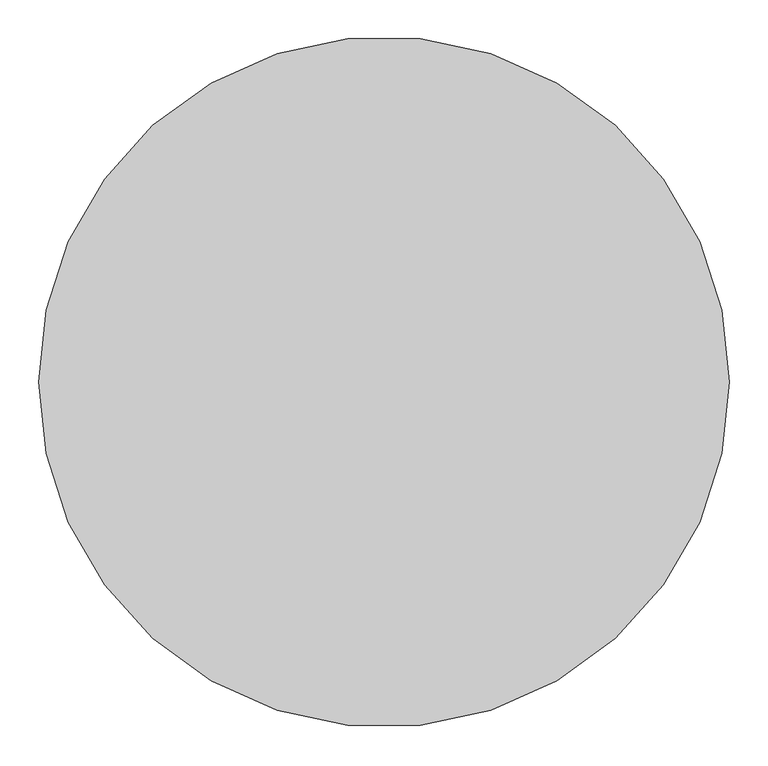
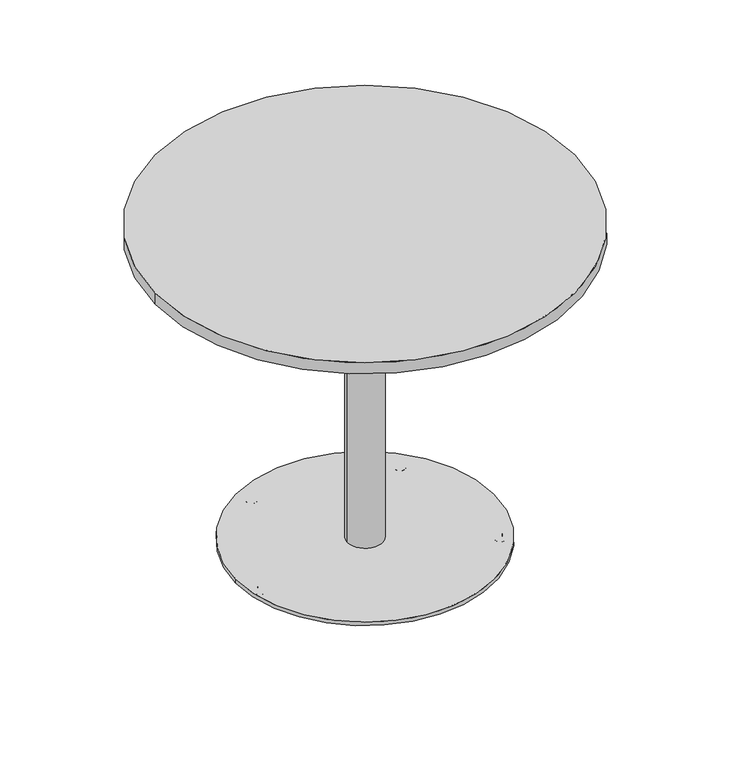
"""IFC4 building model written with IfcOpenShell, lengths in millimetres: furniture geometry, Tetra Disk Base Table : Tetra Disk Base Table."""

from ifc_helpers import new_model, si_unit, point, frame, frame_2d, origin, origin_2d, place, context, project, spatial, polyline, circle_curve, ellipse_curve, trimmed, segment, composite_curve, outline, extrude, source, transform, mapped, element, save
from ifc_brep_helpers import plane_surface, cylinder_surface, revolved_surface, advanced_brep


def furniture_2d7424ca(model_context):
    return source(origin(), model_context, "Body", "SolidModel", [
        advanced_brep(
        [(222.7428677, -113.4988573, 12.0), (219.5466225, -111.1766493, 12.0), (225.9391129, -115.8210653, 12.0), (228.6860049, -117.816799, 0.0), (216.7997306, -109.1809156, 0.0), (222.7428677, -113.4988573, 0.0), (232.7310899, -120.7557252, 5.0), (212.7546456, -106.2419894, 5.0), (232.7310899, -120.7557252, 7.0000003), (212.7546456, -106.2419894, 7.0000003), (225.9391129, -115.8210653, 7.0000003), (219.5466225, -111.1766493, 7.0000003)],
        [
            (0, 1),
            (1, 2, circle_curve(frame((222.7428677, -113.4988573, 12.0), z_axis=(0.0, 0.0, 1.0), x_axis=(-0.8090170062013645, 0.5877852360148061, 0.0)), 3.9507763)),
            (2, 0),
            (2, 1, circle_curve(frame((222.7428677, -113.4988573, 12.0), z_axis=(0.0, 0.0, 1.0), x_axis=(-0.8090170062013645, 0.5877852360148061, 0.0)), 3.9507763)),
            (3, 4, circle_curve(frame((222.7428677, -113.4988573, 0.0), z_axis=(0.0, 0.0, -1.0), x_axis=(-0.8090170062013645, 0.5877852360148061, 0.0)), 7.3461214)),
            (4, 5),
            (5, 3),
            (4, 3, circle_curve(frame((222.7428677, -113.4988573, 0.0), z_axis=(0.0, 0.0, -1.0), x_axis=(-0.8090170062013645, 0.5877852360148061, 0.0)), 7.3461214)),
            (6, 7, circle_curve(frame((222.7428677, -113.4988573, 5.0), z_axis=(0.0, 0.0, -1.0), x_axis=(-0.8090170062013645, 0.5877852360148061, 0.0)), 12.3461214)),
            (7, 4, circle_curve(frame((216.7997306, -109.1809156, 5.0), z_axis=(-0.5877852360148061, -0.8090170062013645, 0.0), x_axis=(-0.8090170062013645, 0.5877852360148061, 0.0)), 5.0)),
            (3, 6, circle_curve(frame((228.6860049, -117.816799, 5.0), z_axis=(-0.5877852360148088, -0.8090170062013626, 0.0), x_axis=(0.8090170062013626, -0.5877852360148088, 0.0)), 5.0)),
            (7, 6, circle_curve(frame((222.7428677, -113.4988573, 5.0), z_axis=(0.0, 0.0, -1.0), x_axis=(-0.8090170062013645, 0.5877852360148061, 0.0)), 12.3461214)),
            (8, 9, circle_curve(frame((222.7428677, -113.4988573, 7.0000003), z_axis=(0.0, 0.0, -1.0), x_axis=(-0.8090170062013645, 0.5877852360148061, 0.0)), 12.3461214)),
            (9, 7),
            (6, 8),
            (9, 8, circle_curve(frame((222.7428677, -113.4988573, 7.0000003), z_axis=(0.0, 0.0, -1.0), x_axis=(-0.8090170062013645, 0.5877852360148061, 0.0)), 12.3461214)),
            (10, 11, circle_curve(frame((222.7428677, -113.4988573, 7.0000003), z_axis=(0.0, 0.0, -1.0), x_axis=(-0.8090170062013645, 0.5877852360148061, 0.0)), 3.9507763)),
            (11, 9),
            (8, 10),
            (11, 10, circle_curve(frame((222.7428677, -113.4988573, 7.0000003), z_axis=(0.0, 0.0, -1.0), x_axis=(-0.8090170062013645, 0.5877852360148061, 0.0)), 3.9507763)),
            (1, 11),
            (10, 2),
        ],
        [
            plane_surface(frame((222.7428677, -113.4988573, 12.0), z_axis=(0.0, 0.0, 1.0), x_axis=(-0.8090170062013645, 0.5877852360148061, 0.0))),
            plane_surface(frame((222.7428677, -113.4988573, 0.0), z_axis=(0.0, 0.0, -1.0), x_axis=(-0.8090170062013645, 0.5877852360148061, 0.0))),
            revolved_surface(trimmed(ellipse_curve(frame((216.7997306, -109.1809156, 5.0), z_axis=(0.5877852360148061, 0.8090170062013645, 0.0), x_axis=(-0.8090170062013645, 0.5877852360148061, 0.0)), 5.0, 5.0), [point((216.7997306, -109.1809156, 0.0))], [point((212.7546456, -106.2419894, 5.0))], True, "CARTESIAN"), (222.7428677, -113.4988573, 12.0), (0.0, 0.0, 1.0)),
            cylinder_surface(frame((222.7428677, -113.4988573, 12.0), z_axis=(0.0, 0.0, 1.0), x_axis=(-0.8090170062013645, 0.5877852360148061, 0.0)), 12.3461214),
            plane_surface(frame((222.7428677, -113.4988573, 7.0000003), z_axis=(0.0, 0.0, 1.0), x_axis=(-0.8090170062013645, 0.5877852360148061, 0.0))),
            cylinder_surface(frame((222.7428677, -113.4988573, 12.0), z_axis=(0.0, 0.0, 1.0), x_axis=(-0.8090170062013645, 0.5877852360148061, 0.0)), 3.9507763),
        ],
        [
            (0, [[1, 2, 3]]),
            (0, [[-3, 4, -1]]),
            (1, [[5, 6, 7]]),
            (1, [[8, -7, -6]]),
            (2, [[9, 10, -5, 11]]),
            (2, [[12, -11, -8, -10]]),
            (3, [[13, 14, -9, 15]]),
            (3, [[16, -15, -12, -14]]),
            (4, [[17, 18, -13, 19]]),
            (4, [[20, -19, -16, -18]]),
            (5, [[-2, 21, -17, 22]]),
            (5, [[-4, -22, -20, -21]]),
        ],
    ),
        advanced_brep(
        [(176.7751497, 176.7679897, 12.0), (173.5789047, 174.4457814, 12.0), (179.9713947, 179.090198, 12.0), (182.7182865, 181.085932, 0.0), (170.832013, 172.4500474, 0.0), (176.7751497, 176.7679897, 0.0), (186.7633712, 184.0248585, 5.0), (166.7869282, 169.5111209, 5.0), (186.7633712, 184.0248585, 7.0000003), (166.7869282, 169.5111209, 7.0000003), (179.9713947, 179.090198, 7.0000003), (173.5789047, 174.4457814, 7.0000003)],
        [
            (0, 1),
            (1, 2, circle_curve(frame((176.7751497, 176.7679897, 12.0), z_axis=(0.0, 0.0, 1.0), x_axis=(-0.8090169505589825, -0.5877853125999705, 0.0)), 3.9507763)),
            (2, 0),
            (2, 1, circle_curve(frame((176.7751497, 176.7679897, 12.0), z_axis=(0.0, 0.0, 1.0), x_axis=(-0.8090169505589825, -0.5877853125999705, 0.0)), 3.9507763)),
            (3, 4, circle_curve(frame((176.7751497, 176.7679897, 0.0), z_axis=(0.0, 0.0, -1.0), x_axis=(-0.8090169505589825, -0.5877853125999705, 0.0)), 7.3461214)),
            (4, 5),
            (5, 3),
            (4, 3, circle_curve(frame((176.7751497, 176.7679897, 0.0), z_axis=(0.0, 0.0, -1.0), x_axis=(-0.8090169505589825, -0.5877853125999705, 0.0)), 7.3461214)),
            (6, 7, circle_curve(frame((176.7751497, 176.7679897, 5.0), z_axis=(0.0, 0.0, -1.0), x_axis=(-0.8090169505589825, -0.5877853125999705, 0.0)), 12.3461214)),
            (7, 4, circle_curve(frame((170.832013, 172.4500474, 5.0), z_axis=(0.5877853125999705, -0.8090169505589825, 0.0), x_axis=(-0.8090169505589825, -0.5877853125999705, 0.0)), 5.0)),
            (3, 6, circle_curve(frame((182.7182865, 181.085932, 5.0), z_axis=(0.5877853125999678, -0.8090169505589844, 0.0), x_axis=(0.8090169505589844, 0.5877853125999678, 0.0)), 5.0)),
            (7, 6, circle_curve(frame((176.7751497, 176.7679897, 5.0), z_axis=(0.0, 0.0, -1.0), x_axis=(-0.8090169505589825, -0.5877853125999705, 0.0)), 12.3461214)),
            (8, 9, circle_curve(frame((176.7751497, 176.7679897, 7.0000003), z_axis=(0.0, 0.0, -1.0), x_axis=(-0.8090169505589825, -0.5877853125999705, 0.0)), 12.3461214)),
            (9, 7),
            (6, 8),
            (9, 8, circle_curve(frame((176.7751497, 176.7679897, 7.0000003), z_axis=(0.0, 0.0, -1.0), x_axis=(-0.8090169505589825, -0.5877853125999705, 0.0)), 12.3461214)),
            (10, 11, circle_curve(frame((176.7751497, 176.7679897, 7.0000003), z_axis=(0.0, 0.0, -1.0), x_axis=(-0.8090169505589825, -0.5877853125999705, 0.0)), 3.9507763)),
            (11, 9),
            (8, 10),
            (11, 10, circle_curve(frame((176.7751497, 176.7679897, 7.0000003), z_axis=(0.0, 0.0, -1.0), x_axis=(-0.8090169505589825, -0.5877853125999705, 0.0)), 3.9507763)),
            (1, 11),
            (10, 2),
        ],
        [
            plane_surface(frame((176.7751497, 176.7679897, 12.0), z_axis=(0.0, 0.0, 1.0), x_axis=(-0.8090169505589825, -0.5877853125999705, 0.0))),
            plane_surface(frame((176.7751497, 176.7679897, 0.0), z_axis=(0.0, 0.0, -1.0), x_axis=(-0.8090169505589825, -0.5877853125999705, 0.0))),
            revolved_surface(trimmed(ellipse_curve(frame((170.832013, 172.4500474, 5.0), z_axis=(-0.5877853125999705, 0.8090169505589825, 0.0), x_axis=(-0.8090169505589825, -0.5877853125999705, 0.0)), 5.0, 5.0), [point((170.832013, 172.4500474, 0.0))], [point((166.7869282, 169.5111209, 5.0))], True, "CARTESIAN"), (176.7751497, 176.7679897, 12.0), (0.0, 0.0, 1.0)),
            cylinder_surface(frame((176.7751497, 176.7679897, 12.0), z_axis=(0.0, 0.0, 1.0), x_axis=(-0.8090169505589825, -0.5877853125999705, 0.0)), 12.3461214),
            plane_surface(frame((176.7751497, 176.7679897, 7.0000003), z_axis=(0.0, 0.0, 1.0), x_axis=(-0.8090169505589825, -0.5877853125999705, 0.0))),
            cylinder_surface(frame((176.7751497, 176.7679897, 12.0), z_axis=(0.0, 0.0, 1.0), x_axis=(-0.8090169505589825, -0.5877853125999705, 0.0)), 3.9507763),
        ],
        [
            (0, [[1, 2, 3]]),
            (0, [[-3, 4, -1]]),
            (1, [[5, 6, 7]]),
            (1, [[8, -7, -6]]),
            (2, [[9, 10, -5, 11]]),
            (2, [[12, -11, -8, -10]]),
            (3, [[13, 14, -9, 15]]),
            (3, [[16, -15, -12, -14]]),
            (4, [[17, 18, -13, 19]]),
            (4, [[20, -19, -16, -18]]),
            (5, [[-2, 21, -17, 22]]),
            (5, [[-4, -22, -20, -21]]),
        ],
    ),
        advanced_brep(
        [(-113.4898209, 222.747472, 12.0), (-112.2689636, 218.9900606, 12.0), (-114.7106781, 226.5048835, 12.0), (-115.7598977, 229.7340485, 0.0), (-111.2197441, 215.7608956, 0.0), (-113.4898209, 222.747472, 0.0), (-117.304983, 234.489331, 5.0), (-109.6746588, 211.0056131, 5.0), (-117.304983, 234.489331, 7.0000003), (-109.6746588, 211.0056131, 7.0000003), (-114.7106781, 226.5048835, 7.0000003), (-112.2689636, 218.9900606, 7.0000003)],
        [
            (0, 1),
            (1, 2, circle_curve(frame((-113.4898209, 222.747472, 12.0), z_axis=(0.0, 0.0, 1.0), x_axis=(0.3090170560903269, -0.951056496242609, 0.0)), 3.9507763)),
            (2, 0),
            (2, 1, circle_curve(frame((-113.4898209, 222.747472, 12.0), z_axis=(0.0, 0.0, 1.0), x_axis=(0.3090170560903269, -0.951056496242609, 0.0)), 3.9507763)),
            (3, 4, circle_curve(frame((-113.4898209, 222.747472, 0.0), z_axis=(0.0, 0.0, -1.0), x_axis=(0.3090170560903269, -0.951056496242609, 0.0)), 7.3461214)),
            (4, 5),
            (5, 3),
            (4, 3, circle_curve(frame((-113.4898209, 222.747472, 0.0), z_axis=(0.0, 0.0, -1.0), x_axis=(0.3090170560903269, -0.951056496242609, 0.0)), 7.3461214)),
            (6, 7, circle_curve(frame((-113.4898209, 222.747472, 5.0), z_axis=(0.0, 0.0, -1.0), x_axis=(0.3090170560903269, -0.951056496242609, 0.0)), 12.3461214)),
            (7, 4, circle_curve(frame((-111.2197441, 215.7608956, 5.0), z_axis=(0.951056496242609, 0.3090170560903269, 0.0), x_axis=(0.3090170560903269, -0.951056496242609, 0.0)), 5.0)),
            (3, 6, circle_curve(frame((-115.7598977, 229.7340485, 5.0), z_axis=(0.95105649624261, 0.30901705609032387, 0.0), x_axis=(-0.30901705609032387, 0.95105649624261, 0.0)), 5.0)),
            (7, 6, circle_curve(frame((-113.4898209, 222.747472, 5.0), z_axis=(0.0, 0.0, -1.0), x_axis=(0.3090170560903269, -0.951056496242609, 0.0)), 12.3461214)),
            (8, 9, circle_curve(frame((-113.4898209, 222.747472, 7.0000003), z_axis=(0.0, 0.0, -1.0), x_axis=(0.3090170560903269, -0.951056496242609, 0.0)), 12.3461214)),
            (9, 7),
            (6, 8),
            (9, 8, circle_curve(frame((-113.4898209, 222.747472, 7.0000003), z_axis=(0.0, 0.0, -1.0), x_axis=(0.3090170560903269, -0.951056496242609, 0.0)), 12.3461214)),
            (10, 11, circle_curve(frame((-113.4898209, 222.747472, 7.0000003), z_axis=(0.0, 0.0, -1.0), x_axis=(0.3090170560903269, -0.951056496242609, 0.0)), 3.9507763)),
            (11, 9),
            (8, 10),
            (11, 10, circle_curve(frame((-113.4898209, 222.747472, 7.0000003), z_axis=(0.0, 0.0, -1.0), x_axis=(0.3090170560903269, -0.951056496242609, 0.0)), 3.9507763)),
            (1, 11),
            (10, 2),
        ],
        [
            plane_surface(frame((-113.4898209, 222.747472, 12.0), z_axis=(0.0, 0.0, 1.0), x_axis=(0.3090170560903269, -0.951056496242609, 0.0))),
            plane_surface(frame((-113.4898209, 222.747472, 0.0), z_axis=(0.0, 0.0, -1.0), x_axis=(0.3090170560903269, -0.951056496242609, 0.0))),
            revolved_surface(trimmed(ellipse_curve(frame((-111.2197441, 215.7608956, 5.0), z_axis=(-0.951056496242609, -0.3090170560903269, 0.0), x_axis=(0.3090170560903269, -0.951056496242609, 0.0)), 5.0, 5.0), [point((-111.2197441, 215.7608956, 0.0))], [point((-109.6746588, 211.0056131, 5.0))], True, "CARTESIAN"), (-113.4898209, 222.747472, 12.0), (0.0, 0.0, 1.0)),
            cylinder_surface(frame((-113.4898209, 222.747472, 12.0), z_axis=(0.0, 0.0, 1.0), x_axis=(0.3090170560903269, -0.951056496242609, 0.0)), 12.3461214),
            plane_surface(frame((-113.4898209, 222.747472, 7.0000003), z_axis=(0.0, 0.0, 1.0), x_axis=(0.3090170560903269, -0.951056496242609, 0.0))),
            cylinder_surface(frame((-113.4898209, 222.747472, 12.0), z_axis=(0.0, 0.0, 1.0), x_axis=(0.3090170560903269, -0.951056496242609, 0.0)), 3.9507763),
        ],
        [
            (0, [[1, 2, 3]]),
            (0, [[-3, 4, -1]]),
            (1, [[5, 6, 7]]),
            (1, [[8, -7, -6]]),
            (2, [[9, 10, -5, 11]]),
            (2, [[12, -11, -8, -10]]),
            (3, [[13, 14, -9, 15]]),
            (3, [[16, -15, -12, -14]]),
            (4, [[17, 18, -13, 19]]),
            (4, [[20, -19, -16, -18]]),
            (5, [[-2, 21, -17, 22]]),
            (5, [[-4, -22, -20, -21]]),
        ],
    ),
        advanced_brep(
        [(-39.1024633, -250.8664969, 12.0), (-39.1024633, -242.9649444, 12.0), (-39.1024633, -246.9157206, 12.0), (-39.1024633, -246.9157206, 0.0), (-39.1024633, -239.5695992, 0.0), (-39.1024633, -254.2618421, 0.0), (-39.1024633, -234.5695992, 5.0), (-39.1024633, -259.2618421, 5.0), (-39.1024633, -234.5695992, 7.0000003), (-39.1024633, -259.2618421, 7.0000003), (-39.1024633, -242.9649444, 7.0000003), (-39.1024633, -250.8664969, 7.0000003)],
        [
            (0, 1, circle_curve(frame((-39.1024633, -246.9157206, 12.0), z_axis=(0.0, 0.0, 1.0), x_axis=(0.0, 1.0, 0.0)), 3.9507763)),
            (1, 2),
            (2, 0),
            (1, 0, circle_curve(frame((-39.1024633, -246.9157206, 12.0), z_axis=(0.0, 0.0, 1.0), x_axis=(0.0, 1.0, 0.0)), 3.9507763)),
            (3, 4),
            (4, 5, circle_curve(frame((-39.1024633, -246.9157206, 0.0), z_axis=(0.0, 0.0, -1.0), x_axis=(0.0, 1.0, 0.0)), 7.3461214)),
            (5, 3),
            (5, 4, circle_curve(frame((-39.1024633, -246.9157206, 0.0), z_axis=(0.0, 0.0, -1.0), x_axis=(0.0, 1.0, 0.0)), 7.3461214)),
            (4, 6, circle_curve(frame((-39.1024633, -239.5695992, 5.0), z_axis=(1.0, 0.0, 0.0), x_axis=(0.0, 1.0, 0.0)), 5.0)),
            (6, 7, circle_curve(frame((-39.1024633, -246.9157206, 5.0), z_axis=(0.0, 0.0, -1.0), x_axis=(0.0, 1.0, 0.0)), 12.3461214)),
            (7, 5, circle_curve(frame((-39.1024633, -254.2618421, 5.0), z_axis=(1.0, 0.0, 0.0), x_axis=(0.0, -1.0, 0.0)), 5.0)),
            (7, 6, circle_curve(frame((-39.1024633, -246.9157206, 5.0), z_axis=(0.0, 0.0, -1.0), x_axis=(0.0, 1.0, 0.0)), 12.3461214)),
            (6, 8),
            (8, 9, circle_curve(frame((-39.1024633, -246.9157206, 7.0000003), z_axis=(0.0, 0.0, -1.0), x_axis=(0.0, 1.0, 0.0)), 12.3461214)),
            (9, 7),
            (9, 8, circle_curve(frame((-39.1024633, -246.9157206, 7.0000003), z_axis=(0.0, 0.0, -1.0), x_axis=(0.0, 1.0, 0.0)), 12.3461214)),
            (8, 10),
            (10, 11, circle_curve(frame((-39.1024633, -246.9157206, 7.0000003), z_axis=(0.0, 0.0, -1.0), x_axis=(0.0, 1.0, 0.0)), 3.9507763)),
            (11, 9),
            (11, 10, circle_curve(frame((-39.1024633, -246.9157206, 7.0000003), z_axis=(0.0, 0.0, -1.0), x_axis=(0.0, 1.0, 0.0)), 3.9507763)),
            (10, 1),
            (0, 11),
        ],
        [
            plane_surface(frame((-39.1024633, -246.9157206, 12.0), z_axis=(0.0, 0.0, 1.0), x_axis=(0.0, 1.0, 0.0))),
            plane_surface(frame((-39.1024633, -246.9157206, 0.0), z_axis=(0.0, 0.0, -1.0), x_axis=(0.0, 1.0, 0.0))),
            revolved_surface(trimmed(ellipse_curve(frame((-39.1024633, -239.5695992, 5.0), z_axis=(-1.0, 0.0, 0.0), x_axis=(0.0, 1.0, 0.0)), 5.0, 5.0), [point((-39.1024633, -234.5695992, 5.0))], [point((-39.1024633, -239.5695992, 0.0))], True, "CARTESIAN"), (-39.1024633, -246.9157206, 12.0), (0.0, 0.0, -1.0)),
            cylinder_surface(frame((-39.1024633, -246.9157206, 12.0), z_axis=(0.0, 0.0, -1.0), x_axis=(0.0, 1.0, 0.0)), 12.3461214),
            plane_surface(frame((-39.1024633, -246.9157206, 7.0000003), z_axis=(0.0, 0.0, 1.0), x_axis=(0.0, 1.0, 0.0))),
            cylinder_surface(frame((-39.1024633, -246.9157206, 12.0), z_axis=(0.0, 0.0, -1.0), x_axis=(0.0, 1.0, 0.0)), 3.9507763),
        ],
        [
            (0, [[1, 2, 3]]),
            (0, [[4, -3, -2]]),
            (1, [[5, 6, 7]]),
            (1, [[-7, 8, -5]]),
            (2, [[-6, 9, 10, 11]]),
            (2, [[-8, -11, 12, -9]]),
            (3, [[-10, 13, 14, 15]]),
            (3, [[-12, -15, 16, -13]]),
            (4, [[-14, 17, 18, 19]]),
            (4, [[-16, -19, 20, -17]]),
            (5, [[-18, 21, -1, 22]]),
            (5, [[-20, -22, -4, -21]]),
        ],
    ),
        advanced_brep(
        [(-246.9157206, -39.1024633, 12.0), (-242.9649444, -39.1024633, 12.0), (-250.8664969, -39.1024633, 12.0), (-254.2618421, -39.1024633, 0.0), (-239.5695992, -39.1024633, 0.0), (-246.9157206, -39.1024633, 0.0), (-259.2618421, -39.1024633, 5.0), (-234.5695992, -39.1024633, 5.0), (-259.2618421, -39.1024633, 7.0000003), (-234.5695992, -39.1024633, 7.0000003), (-250.8664969, -39.1024633, 7.0000003), (-242.9649444, -39.1024633, 7.0000003)],
        [
            (0, 1),
            (1, 2, circle_curve(frame((-246.9157206, -39.1024633, 12.0), z_axis=(0.0, 0.0, 1.0), x_axis=(1.0, 0.0, 0.0)), 3.9507763)),
            (2, 0),
            (2, 1, circle_curve(frame((-246.9157206, -39.1024633, 12.0), z_axis=(0.0, 0.0, 1.0), x_axis=(1.0, 0.0, 0.0)), 3.9507763)),
            (3, 4, circle_curve(frame((-246.9157206, -39.1024633, 0.0), z_axis=(0.0, 0.0, -1.0), x_axis=(1.0, 0.0, 0.0)), 7.3461214)),
            (4, 5),
            (5, 3),
            (4, 3, circle_curve(frame((-246.9157206, -39.1024633, 0.0), z_axis=(0.0, 0.0, -1.0), x_axis=(1.0, 0.0, 0.0)), 7.3461214)),
            (6, 7, circle_curve(frame((-246.9157206, -39.1024633, 5.0), z_axis=(0.0, 0.0, -1.0), x_axis=(1.0, 0.0, 0.0)), 12.3461214)),
            (7, 4, circle_curve(frame((-239.5695992, -39.1024633, 5.0), z_axis=(0.0, 1.0, 0.0), x_axis=(1.0, 0.0, 0.0)), 5.0)),
            (3, 6, circle_curve(frame((-254.2618421, -39.1024633, 5.0), z_axis=(0.0, 1.0, 0.0), x_axis=(-1.0, 0.0, 0.0)), 5.0)),
            (7, 6, circle_curve(frame((-246.9157206, -39.1024633, 5.0), z_axis=(0.0, 0.0, -1.0), x_axis=(1.0, 0.0, 0.0)), 12.3461214)),
            (8, 9, circle_curve(frame((-246.9157206, -39.1024633, 7.0000003), z_axis=(0.0, 0.0, -1.0), x_axis=(1.0, 0.0, 0.0)), 12.3461214)),
            (9, 7),
            (6, 8),
            (9, 8, circle_curve(frame((-246.9157206, -39.1024633, 7.0000003), z_axis=(0.0, 0.0, -1.0), x_axis=(1.0, 0.0, 0.0)), 12.3461214)),
            (10, 11, circle_curve(frame((-246.9157206, -39.1024633, 7.0000003), z_axis=(0.0, 0.0, -1.0), x_axis=(1.0, 0.0, 0.0)), 3.9507763)),
            (11, 9),
            (8, 10),
            (11, 10, circle_curve(frame((-246.9157206, -39.1024633, 7.0000003), z_axis=(0.0, 0.0, -1.0), x_axis=(1.0, 0.0, 0.0)), 3.9507763)),
            (1, 11),
            (10, 2),
        ],
        [
            plane_surface(frame((-246.9157206, -39.1024633, 12.0), z_axis=(0.0, 0.0, 1.0), x_axis=(1.0, 0.0, 0.0))),
            plane_surface(frame((-246.9157206, -39.1024633, 0.0), z_axis=(0.0, 0.0, -1.0), x_axis=(1.0, 0.0, 0.0))),
            revolved_surface(trimmed(ellipse_curve(frame((-239.5695992, -39.1024633, 5.0), z_axis=(0.0, -1.0, 0.0), x_axis=(1.0, 0.0, 0.0)), 5.0, 5.0), [point((-239.5695992, -39.1024633, 0.0))], [point((-234.5695992, -39.1024633, 5.0))], True, "CARTESIAN"), (-246.9157206, -39.1024633, 12.0), (0.0, 0.0, 1.0)),
            cylinder_surface(frame((-246.9157206, -39.1024633, 12.0), z_axis=(0.0, 0.0, 1.0), x_axis=(1.0, 0.0, 0.0)), 12.3461214),
            plane_surface(frame((-246.9157206, -39.1024633, 7.0000003), z_axis=(0.0, 0.0, 1.0), x_axis=(1.0, 0.0, 0.0))),
            cylinder_surface(frame((-246.9157206, -39.1024633, 12.0), z_axis=(0.0, 0.0, 1.0), x_axis=(1.0, 0.0, 0.0)), 3.9507763),
        ],
        [
            (0, [[1, 2, 3]]),
            (0, [[-3, 4, -1]]),
            (1, [[5, 6, 7]]),
            (1, [[8, -7, -6]]),
            (2, [[9, 10, -5, 11]]),
            (2, [[12, -11, -8, -10]]),
            (3, [[13, 14, -9, 15]]),
            (3, [[16, -15, -12, -14]]),
            (4, [[17, 18, -13, 19]]),
            (4, [[20, -19, -16, -18]]),
            (5, [[-2, 21, -17, 22]]),
            (5, [[-4, -22, -20, -21]]),
        ],
    ),
        advanced_brep(
        [(-69.8845432, 0.0, 675.0000051), (0.0, 69.8845432, 675.0000051), (69.8845432, 0.0, 675.0000051), (0.0, -69.8845432, 675.0000051), (0.0, 68.4607826, 677.6000051), (-68.4607826, 0.0, 677.6000051), (0.0, -68.4607826, 677.6000051), (68.4607826, 0.0, 677.6000051), (0.0, 130.8360546, 692.3913128), (0.0, 71.8052184, 675.5318419), (-71.8052184, 0.0, 675.5318419), (-130.8360546, 0.0, 692.3913128), (-130.8360546, 0.0, 694.9918771), (0.0, 130.8360546, 694.9918771), (-70.349921, 0.0, 678.1115233), (0.0, 70.349921, 678.1115233), (0.0, -71.8052184, 675.5318419), (0.0, -130.8360546, 692.3913128), (0.0, -130.8360546, 694.9918771), (0.0, -70.349921, 678.1115233), (71.8052184, 0.0, 675.5318419), (130.8360546, 0.0, 692.3913128), (130.8360546, 0.0, 694.9918771), (70.349921, 0.0, 678.1115233)],
        [
            (0, 1),
            (1, 2),
            (2, 3),
            (3, 0),
            (4, 5),
            (5, 6),
            (6, 7),
            (7, 4),
            (8, 9, ellipse_curve(frame((0.0, 132.7432738, 628.950819), z_axis=(1.0, 0.0, 0.0), x_axis=(0.0, -1.0, 0.0)), 89.738676, 63.4548264)),
            (9, 10),
            (10, 11, ellipse_curve(frame((-132.7432738, 0.0, 628.950819), z_axis=(0.0, -1.0, 0.0), x_axis=(-1.0, 0.0, 0.0)), 89.738676, 63.4548264)),
            (11, 8),
            (11, 12),
            (12, 13),
            (13, 8),
            (12, 14, ellipse_curve(frame((-132.7432738, 0.0, 628.950819), z_axis=(0.0, 1.0, 0.0), x_axis=(1.0, 0.0, 0.0)), 93.4156313, 66.0548264)),
            (14, 15),
            (15, 13, ellipse_curve(frame((0.0, 132.7432738, 628.950819), z_axis=(-1.0, 0.0, 0.0), x_axis=(0.0, 1.0, 0.0)), 93.4156313, 66.0548264)),
            (14, 5, ellipse_curve(frame((-68.4607826, 0.0, 679.6000051), z_axis=(0.0, -1.0, 0.0), x_axis=(-1.0, 0.0, 0.0)), 2.8284271, 2.0)),
            (4, 15, ellipse_curve(frame((0.0, 68.4607826, 679.6000051), z_axis=(1.0, 0.0, 0.0), x_axis=(0.0, -1.0, 0.0)), 2.8284271, 2.0)),
            (9, 1, ellipse_curve(frame((0.0, 69.8845432, 677.0000051), z_axis=(-1.0, 0.0, 0.0), x_axis=(0.0, 1.0, 0.0)), 2.8284271, 2.0)),
            (0, 10, ellipse_curve(frame((-69.8845432, 0.0, 677.0000051), z_axis=(0.0, 1.0, 0.0), x_axis=(1.0, 0.0, 0.0)), 2.8284271, 2.0)),
            (10, 16),
            (16, 17, ellipse_curve(frame((0.0, -132.7432738, 628.950819), z_axis=(1.0, 0.0, 0.0), x_axis=(0.0, -1.0, 0.0)), 89.738676, 63.4548264)),
            (17, 11),
            (17, 18),
            (18, 12),
            (18, 19, ellipse_curve(frame((0.0, -132.7432738, 628.950819), z_axis=(-1.0, 0.0, 0.0), x_axis=(0.0, 1.0, 0.0)), 93.4156313, 66.0548264)),
            (19, 14),
            (19, 6, ellipse_curve(frame((0.0, -68.4607826, 679.6000051), z_axis=(1.0, 0.0, 0.0), x_axis=(0.0, -1.0, 0.0)), 2.8284271, 2.0)),
            (3, 16, ellipse_curve(frame((0.0, -69.8845432, 677.0000051), z_axis=(-1.0, 0.0, 0.0), x_axis=(0.0, 1.0, 0.0)), 2.8284271, 2.0)),
            (16, 20),
            (20, 21, ellipse_curve(frame((132.7432738, 0.0, 628.950819), z_axis=(0.0, 1.0, 0.0), x_axis=(1.0, 0.0, 0.0)), 89.738676, 63.4548264)),
            (21, 17),
            (21, 22),
            (22, 18),
            (22, 23, ellipse_curve(frame((132.7432738, 0.0, 628.950819), z_axis=(0.0, -1.0, 0.0), x_axis=(-1.0, 0.0, 0.0)), 93.4156313, 66.0548264)),
            (23, 19),
            (23, 7, ellipse_curve(frame((68.4607826, 0.0, 679.6000051), z_axis=(0.0, 1.0, 0.0), x_axis=(1.0, 0.0, 0.0)), 2.8284271, 2.0)),
            (2, 20, ellipse_curve(frame((69.8845432, 0.0, 677.0000051), z_axis=(0.0, -1.0, 0.0), x_axis=(-1.0, 0.0, 0.0)), 2.8284271, 2.0)),
            (8, 21),
            (20, 9),
            (13, 22),
            (15, 23),
        ],
        [
            plane_surface(frame((64.2017586, 0.0, 675.0000051), z_axis=(0.0, 0.0, -1.0000000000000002), x_axis=(-0.7071067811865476, -0.7071067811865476, 0.0))),
            plane_surface(frame((64.2017586, 0.0, 677.6000051), z_axis=(0.0, 0.0, 1.0000000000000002), x_axis=(0.7071067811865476, 0.7071067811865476, 0.0))),
            revolved_surface(polyline([(-222.48194984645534, 4.645531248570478e-08, 628.950819), (-4.645511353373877e-08, 222.4819498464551, 628.950819)]), (-0.9536096, 131.7896642, 628.950819), (-0.7071067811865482, -0.7071067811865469, 0.0)),
            plane_surface(frame((0.0, 130.8360546, 692.3913128), z_axis=(-0.7071067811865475, 0.7071067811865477, 0.0), x_axis=(-0.7071067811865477, -0.7071067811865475, 0.0))),
            cylinder_surface(frame((-0.9536096, 131.7896642, 628.950819), z_axis=(0.7071067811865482, 0.7071067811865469, 0.0), x_axis=(-0.7071067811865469, 0.7071067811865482, 0.0)), 66.0548264),
            revolved_surface(polyline([(-71.28920971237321, 1.2373178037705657e-08, 679.6000051), (-1.2373121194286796e-08, 71.28920971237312, 679.6000051)]), (31.187636, 99.6484186, 679.6000051), (-0.7071067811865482, -0.7071067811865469, 0.0)),
            cylinder_surface(frame((30.4757557, 100.3602989, 677.0000051), z_axis=(0.7071067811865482, 0.7071067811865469, 0.0), x_axis=(-0.7071067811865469, 0.7071067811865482, 0.0)), 2.0),
            revolved_surface(polyline([(-4.645534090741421e-08, -222.4819498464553, 628.950819), (-222.4819498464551, -4.6455120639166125e-08, 628.950819)]), (-131.7896642, -0.9536096, 628.950819), (0.7071067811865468, -0.7071067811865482, 0.0)),
            plane_surface(frame((-130.8360546, 0.0, 692.3913128), z_axis=(-0.7071067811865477, -0.7071067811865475, 0.0), x_axis=(0.7071067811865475, -0.7071067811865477, 0.0))),
            cylinder_surface(frame((-131.7896642, -0.9536096, 628.950819), z_axis=(-0.7071067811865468, 0.7071067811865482, 0.0), x_axis=(-0.7071067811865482, -0.7071067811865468, 0.0)), 66.0548264),
            revolved_surface(polyline([(-1.2373192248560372e-08, -71.28920971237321, 679.6000051), (-71.28920971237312, -1.2373121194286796e-08, 679.6000051)]), (-99.6484186, 31.187636, 679.6000051), (0.7071067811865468, -0.7071067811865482, 0.0)),
            cylinder_surface(frame((-100.3602989, 30.4757557, 677.0000051), z_axis=(-0.7071067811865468, 0.7071067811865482, 0.0), x_axis=(-0.7071067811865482, -0.7071067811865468, 0.0)), 2.0),
            revolved_surface(polyline([(222.48194984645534, -4.645531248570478e-08, 628.950819), (4.645511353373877e-08, -222.4819498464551, 628.950819)]), (0.9536096, -131.7896642, 628.950819), (0.7071067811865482, 0.7071067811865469, 0.0)),
            plane_surface(frame((0.0, -130.8360546, 692.3913128), z_axis=(0.7071067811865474, -0.7071067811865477, 0.0), x_axis=(0.7071067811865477, 0.7071067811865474, 0.0))),
            cylinder_surface(frame((0.9536096, -131.7896642, 628.950819), z_axis=(-0.7071067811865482, -0.7071067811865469, 0.0), x_axis=(0.7071067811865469, -0.7071067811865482, 0.0)), 66.0548264),
            revolved_surface(polyline([(71.28920971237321, -1.2373178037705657e-08, 679.6000051), (1.2373121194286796e-08, -71.28920971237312, 679.6000051)]), (-31.187636, -99.6484186, 679.6000051), (0.7071067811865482, 0.7071067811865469, 0.0)),
            cylinder_surface(frame((-30.4757557, -100.3602989, 677.0000051), z_axis=(-0.7071067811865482, -0.7071067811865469, 0.0), x_axis=(0.7071067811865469, -0.7071067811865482, 0.0)), 2.0),
            revolved_surface(polyline([(4.645525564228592e-08, 222.48194984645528, 628.950819), (222.48194984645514, 4.645513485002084e-08, 628.950819)]), (131.7896642, 0.9536096, 628.950819), (-0.7071067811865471, 0.707106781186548, 0.0)),
            plane_surface(frame((130.8360546, 0.0, 692.3913128), z_axis=(0.7071067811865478, 0.7071067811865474, 0.0), x_axis=(-0.7071067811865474, 0.7071067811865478, 0.0))),
            cylinder_surface(frame((131.7896642, 0.9536096, 628.950819), z_axis=(0.7071067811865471, -0.707106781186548, 0.0), x_axis=(0.707106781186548, 0.7071067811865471, 0.0)), 66.0548264),
            revolved_surface(polyline([(1.2373135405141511e-08, 71.28920971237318, 679.6000051), (71.28920971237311, 1.2373117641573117e-08, 679.6000051)]), (99.6484186, -31.187636, 679.6000051), (-0.7071067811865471, 0.707106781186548, 0.0)),
            cylinder_surface(frame((100.3602989, -30.4757557, 677.0000051), z_axis=(0.7071067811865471, -0.707106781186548, 0.0), x_axis=(0.707106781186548, 0.7071067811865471, 0.0)), 2.0),
        ],
        [
            (0, [[1, 2, 3, 4]]),
            (1, [[5, 6, 7, 8]]),
            (2, [[9, 10, 11, 12]]),
            (3, [[-12, 13, 14, 15]]),
            (4, [[-14, 16, 17, 18]]),
            (5, [[-17, 19, -5, 20]]),
            (6, [[-10, 21, -1, 22]]),
            (7, [[-11, 23, 24, 25]]),
            (8, [[-13, -25, 26, 27]]),
            (9, [[-16, -27, 28, 29]]),
            (10, [[-19, -29, 30, -6]]),
            (11, [[-22, -4, 31, -23]]),
            (12, [[-24, 32, 33, 34]]),
            (13, [[-26, -34, 35, 36]]),
            (14, [[-28, -36, 37, 38]]),
            (15, [[-30, -38, 39, -7]]),
            (16, [[-31, -3, 40, -32]]),
            (17, [[-9, 41, -33, 42]]),
            (18, [[-15, 43, -35, -41]]),
            (19, [[-18, 44, -37, -43]]),
            (20, [[-20, -8, -39, -44]]),
            (21, [[-21, -42, -40, -2]]),
        ],
    ),
        extrude(outline(composite_curve([segment(trimmed(circle_curve(origin_2d(), 37.3573128), [point((-37.3573128, 0.0))], [point((37.3573128, 0.0))], False, "CARTESIAN"), True, "CONTINUOUS"), segment(trimmed(circle_curve(origin_2d(), 37.3573128), [point((37.3573128, 0.0))], [point((-37.3573128, 0.0))], False, "CARTESIAN"), True, "CONTINUOUS")], self_intersect=False), holes=[composite_curve([segment(trimmed(circle_curve(origin_2d(), 34.8573128), [point((-34.8573128, 0.0))], [point((34.8573128, 0.0))], True, "CARTESIAN"), True, "CONTINUOUS"), segment(trimmed(circle_curve(origin_2d(), 34.8573128), [point((34.8573128, 0.0))], [point((-34.8573128, 0.0))], True, "CARTESIAN"), True, "CONTINUOUS")], self_intersect=False)]), frame((0.0, 0.0, 14.9999997), z_axis=(0.0, 0.0, 1.0), x_axis=(1.0, 0.0, 0.0)), (0.0, 0.0, 1.0), 662.6008202),
        extrude(outline(composite_curve([segment(trimmed(circle_curve(frame_2d((-3580.9778118, -3580.9768406)), 4916.7420578), [point((-7.26845, -204.1508367))], [point((-204.1305621, -7.2875542))], True, "CARTESIAN"), True, "CONTINUOUS"), segment(trimmed(circle_curve(frame_2d((-197.2828213, 0.0)), 10.0), [point((-204.1305621, -7.2875542))], [point((-204.1305621, 7.2875542))], False, "CARTESIAN"), True, "CONTINUOUS"), segment(trimmed(circle_curve(frame_2d((-3580.9778118, 3580.9768406)), 4916.7420578), [point((-204.1305621, 7.2875542))], [point((-7.26845, 204.1508367))], True, "CARTESIAN"), True, "CONTINUOUS"), segment(trimmed(circle_curve(frame_2d((0.0, 197.2828213)), 10.0), [point((-7.26845, 204.1508367))], [point((7.26845, 204.1508367))], False, "CARTESIAN"), True, "CONTINUOUS"), segment(trimmed(circle_curve(frame_2d((3580.9778118, 3580.9768406)), 4916.7420578), [point((7.26845, 204.1508367))], [point((204.1305621, 7.2875542))], True, "CARTESIAN"), True, "CONTINUOUS"), segment(trimmed(circle_curve(frame_2d((197.2828213, 0.0)), 10.0), [point((204.1305621, 7.2875542))], [point((204.1305621, -7.2875542))], False, "CARTESIAN"), True, "CONTINUOUS"), segment(trimmed(circle_curve(frame_2d((3580.9778118, -3580.9768406)), 4916.7420578), [point((204.1305621, -7.2875542))], [point((7.26845, -204.1508367))], True, "CARTESIAN"), True, "CONTINUOUS"), segment(trimmed(circle_curve(frame_2d((0.0, -197.2828213)), 10.0), [point((7.26845, -204.1508367))], [point((-7.26845, -204.1508367))], False, "CARTESIAN"), True, "CONTINUOUS")], self_intersect=False), holes=[polyline([(0.0, 130.8360546), (-130.8360546, 0.0), (0.0, -130.8360546), (130.8360546, 0.0), (0.0, 130.8360546)]), composite_curve([segment(trimmed(circle_curve(frame_2d((-94.742081, 94.7334084)), 2.8), [point((-97.542081, 94.7334084))], [point((-91.942081, 94.7334084))], True, "CARTESIAN"), True, "CONTINUOUS"), segment(trimmed(circle_curve(frame_2d((-94.742081, 94.7334084)), 2.8), [point((-91.942081, 94.7334084))], [point((-97.542081, 94.7334084))], True, "CARTESIAN"), True, "CONTINUOUS")], self_intersect=False), composite_curve([segment(trimmed(circle_curve(frame_2d((-183.1247903, -0.030391)), 2.8), [point((-185.9247903, -0.030391))], [point((-180.3247903, -0.030391))], True, "CARTESIAN"), True, "CONTINUOUS"), segment(trimmed(circle_curve(frame_2d((-183.1247903, -0.030391)), 2.8), [point((-180.3247903, -0.030391))], [point((-185.9247903, -0.030391))], True, "CARTESIAN"), True, "CONTINUOUS")], self_intersect=False), composite_curve([segment(trimmed(circle_curve(frame_2d((-94.742081, -94.7334084)), 2.8), [point((-97.542081, -94.7334084))], [point((-91.942081, -94.7334084))], True, "CARTESIAN"), True, "CONTINUOUS"), segment(trimmed(circle_curve(frame_2d((-94.742081, -94.7334084)), 2.8), [point((-91.942081, -94.7334084))], [point((-97.542081, -94.7334084))], True, "CARTESIAN"), True, "CONTINUOUS")], self_intersect=False), composite_curve([segment(trimmed(circle_curve(frame_2d((94.742081, 94.7334084)), 2.8), [point((91.942081, 94.7334084))], [point((97.542081, 94.7334084))], True, "CARTESIAN"), True, "CONTINUOUS"), segment(trimmed(circle_curve(frame_2d((94.742081, 94.7334084)), 2.8), [point((97.542081, 94.7334084))], [point((91.942081, 94.7334084))], True, "CARTESIAN"), True, "CONTINUOUS")], self_intersect=False), composite_curve([segment(trimmed(circle_curve(frame_2d((183.1247903, -0.030391)), 2.8), [point((180.3247903, -0.030391))], [point((185.9247903, -0.030391))], True, "CARTESIAN"), True, "CONTINUOUS"), segment(trimmed(circle_curve(frame_2d((183.1247903, -0.030391)), 2.8), [point((185.9247903, -0.030391))], [point((180.3247903, -0.030391))], True, "CARTESIAN"), True, "CONTINUOUS")], self_intersect=False), composite_curve([segment(trimmed(circle_curve(frame_2d((94.742081, -94.7334084)), 2.8), [point((91.942081, -94.7334084))], [point((97.542081, -94.7334084))], True, "CARTESIAN"), True, "CONTINUOUS"), segment(trimmed(circle_curve(frame_2d((94.742081, -94.7334084)), 2.8), [point((97.542081, -94.7334084))], [point((91.942081, -94.7334084))], True, "CARTESIAN"), True, "CONTINUOUS")], self_intersect=False), composite_curve([segment(trimmed(circle_curve(frame_2d((0.0, 183.0943993)), 2.8), [point((-2.8, 183.0943993))], [point((2.8, 183.0943993))], True, "CARTESIAN"), True, "CONTINUOUS"), segment(trimmed(circle_curve(frame_2d((0.0, 183.0943993)), 2.8), [point((2.8, 183.0943993))], [point((-2.8, 183.0943993))], True, "CARTESIAN"), True, "CONTINUOUS")], self_intersect=False), composite_curve([segment(trimmed(circle_curve(frame_2d((0.0, -183.1551812)), 2.8), [point((-2.8, -183.1551812))], [point((2.8, -183.1551812))], True, "CARTESIAN"), True, "CONTINUOUS"), segment(trimmed(circle_curve(frame_2d((0.0, -183.1551812)), 2.8), [point((2.8, -183.1551812))], [point((-2.8, -183.1551812))], True, "CARTESIAN"), True, "CONTINUOUS")], self_intersect=False)]), frame((0.0, 0.0, 692.3913128), z_axis=(0.0, 0.0, 1.0), x_axis=(1.0, 0.0, 0.0)), (0.0, 0.0, 1.0), 2.608707),
        extrude(outline(composite_curve([segment(trimmed(circle_curve(origin_2d(), 275.0000021), [point((-275.0000021, 0.0))], [point((275.0000021, 0.0))], False, "CARTESIAN"), True, "CONTINUOUS"), segment(trimmed(circle_curve(origin_2d(), 275.0000021), [point((275.0000021, 0.0))], [point((-275.0000021, 0.0))], False, "CARTESIAN"), True, "CONTINUOUS")], self_intersect=False)), frame((0.0, 0.0, 7.0000003), z_axis=(0.0, 0.0, 1.0), x_axis=(1.0, 0.0, 0.0)), (0.0, 0.0, 1.0), 7.9999994),
        extrude(outline(composite_curve([segment(trimmed(circle_curve(origin_2d(), 447.0000049), [point((-447.0000049, 0.0))], [point((447.0000049, 0.0))], False, "CARTESIAN"), True, "CONTINUOUS"), segment(trimmed(circle_curve(origin_2d(), 447.0000049), [point((447.0000049, 0.0))], [point((-447.0000049, 0.0))], False, "CARTESIAN"), True, "CONTINUOUS")], self_intersect=False)), frame((0.0, 0.0, 695.0000198), z_axis=(0.0, 0.0, 1.0), x_axis=(1.0, 0.0, 0.0)), (0.0, 0.0, 1.0), 25.0000002),
    ])


if __name__ == "__main__":
    model = new_model("IFC4")
    model_context = context("Model", 3, world=origin())
    ifc_project = project(units=[si_unit("LENGTHUNIT", "METRE", prefix="MILLI")], contexts=[model_context])
    site = spatial("IfcSite", under=ifc_project)
    building = spatial("IfcBuilding", under=site)
    placement = place(None, origin())
    furniture_shape = furniture_2d7424ca(model_context)
    element("IfcFurniture", 1, ObjectType="Tetra Disk Base Table : Tetra Disk Base Table", at=placement, inside=building, context=model_context, shape_type="MappedRepresentation", body=[
        mapped(furniture_shape, transform((0.0, 0.0, 0.0), x_axis=(1.0, 0.0, 0.0), y_axis=(0.0, 1.0, 0.0), z_axis=(0.0, 0.0, 1.0))),
    ])
    save(model, "model.ifc")
